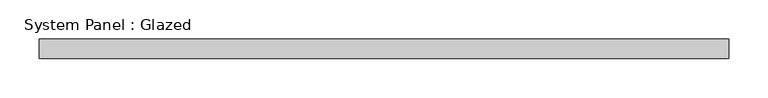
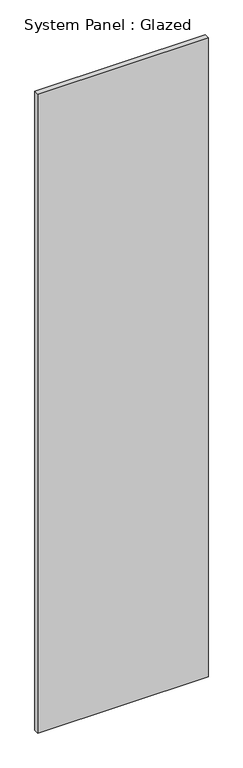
"""IFC4 building model written with IfcOpenShell, lengths in millimetres: plate geometry, System Panel : Glazed."""

from ifc_helpers import new_model, si_unit, origin, origin_with_axes, place, context, project, spatial, polyline, outline, extrude, source, transform, mapped, element, save


def system_panel_glazed_aacc9fa0(model_context):
    return source(origin(), model_context, "Body", "SweptSolid", [
        extrude(outline(polyline([(441.1899944, 24.5), (-441.1899944, 24.5), (-441.1899944, 49.5), (441.1899944, 49.5), (441.1899944, 24.5)])), origin_with_axes(), (0.0, 0.0, 1.0), 3500.0),
    ])


if __name__ == "__main__":
    model = new_model("IFC4")
    model_context = context("Model", 3, world=origin())
    ifc_project = project(units=[si_unit("LENGTHUNIT", "METRE", prefix="MILLI")], contexts=[model_context])
    site = spatial("IfcSite", under=ifc_project)
    building = spatial("IfcBuilding", under=site)
    placement = place(None, origin())
    system_panel_glazed_shape = system_panel_glazed_aacc9fa0(model_context)
    element("IfcPlate", 1, ObjectType="System Panel : Glazed", at=placement, inside=building, context=model_context, shape_type="MappedRepresentation", body=[
        mapped(system_panel_glazed_shape, transform((0.0, 0.0, 0.0), x_axis=(1.0, 0.0, 0.0), y_axis=(0.0, 1.0, 0.0), z_axis=(0.0, 0.0, 1.0))),
    ])
    save(model, "model.ifc")
